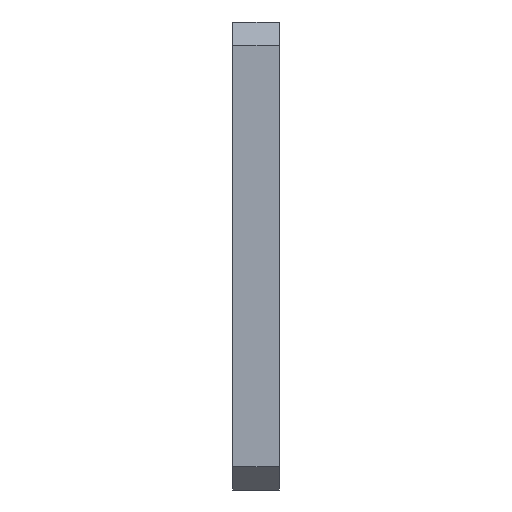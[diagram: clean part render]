
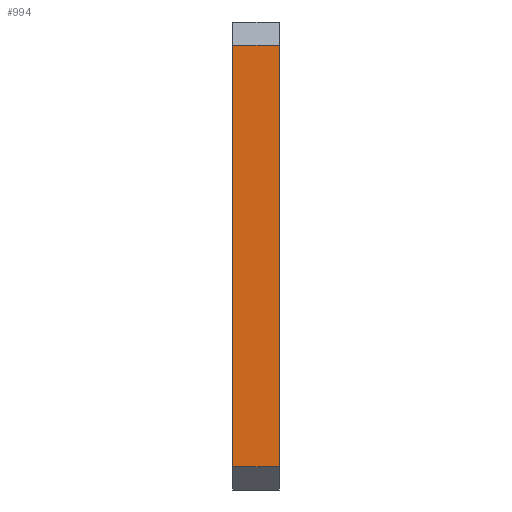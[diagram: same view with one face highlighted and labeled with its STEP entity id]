
A CAD part, left-side view. The second image highlights one B-rep face of the part: STEP entity #994.
In plain terms, the highlighted planar face has unit normal (-1, 0, 0).
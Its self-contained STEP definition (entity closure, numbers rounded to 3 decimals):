
#2 = EDGE_CURVE ( 'NONE', #197, #159, #958, .T. ) ;
#10 = CARTESIAN_POINT ( 'NONE',  ( -125., 10., -45. ) ) ;
#104 = EDGE_CURVE ( 'NONE', #197, #417, #1053, .T. ) ;
#120 = DIRECTION ( 'NONE',  ( 0., -1., 0. ) ) ;
#159 = VERTEX_POINT ( 'NONE', #707 ) ;
#197 = VERTEX_POINT ( 'NONE', #328 ) ;
#240 = VECTOR ( 'NONE', #681, 1000. ) ;
#250 = ORIENTED_EDGE ( 'NONE', *, *, #104, .T. ) ;
#253 = VECTOR ( 'NONE', #1158, 1000. ) ;
#302 = CARTESIAN_POINT ( 'NONE',  ( -125., 10., 50. ) ) ;
#303 = CARTESIAN_POINT ( 'NONE',  ( -125., 10., 45. ) ) ;
#313 = CARTESIAN_POINT ( 'NONE',  ( -125., 10., 50. ) ) ;
#321 = PLANE ( 'NONE',  #577 ) ;
#328 = CARTESIAN_POINT ( 'NONE',  ( -125., 10., -45. ) ) ;
#330 = EDGE_CURVE ( 'NONE', #417, #913, #828, .T. ) ;
#417 = VERTEX_POINT ( 'NONE', #747 ) ;
#458 = VECTOR ( 'NONE', #1117, 1000. ) ;
#577 = AXIS2_PLACEMENT_3D ( 'NONE', #313, #1077, #1092 ) ;
#638 = CARTESIAN_POINT ( 'NONE',  ( -125., 0., 50. ) ) ;
#659 = EDGE_LOOP ( 'NONE', ( #678, #250, #1229, #661 ) ) ;
#661 = ORIENTED_EDGE ( 'NONE', *, *, #874, .T. ) ;
#678 = ORIENTED_EDGE ( 'NONE', *, *, #2, .F. ) ;
#681 = DIRECTION ( 'NONE',  ( 0., 1., 0. ) ) ;
#707 = CARTESIAN_POINT ( 'NONE',  ( -125., 10., 45. ) ) ;
#747 = CARTESIAN_POINT ( 'NONE',  ( -125., 0., -45. ) ) ;
#828 = LINE ( 'NONE', #638, #458 ) ;
#847 = VECTOR ( 'NONE', #120, 1000. ) ;
#874 = EDGE_CURVE ( 'NONE', #913, #159, #1155, .T. ) ;
#913 = VERTEX_POINT ( 'NONE', #946 ) ;
#946 = CARTESIAN_POINT ( 'NONE',  ( -125., 0., 45. ) ) ;
#958 = LINE ( 'NONE', #302, #253 ) ;
#992 = FACE_OUTER_BOUND ( 'NONE', #659, .T. ) ;
#994 = ADVANCED_FACE ( 'NONE', ( #992 ), #321, .F. ) ;
#1053 = LINE ( 'NONE', #10, #847 ) ;
#1077 = DIRECTION ( 'NONE',  ( 1., 0., 0. ) ) ;
#1092 = DIRECTION ( 'NONE',  ( 0., 0., -1. ) ) ;
#1117 = DIRECTION ( 'NONE',  ( 0., 0., 1. ) ) ;
#1155 = LINE ( 'NONE', #303, #240 ) ;
#1158 = DIRECTION ( 'NONE',  ( 0., 0., 1. ) ) ;
#1229 = ORIENTED_EDGE ( 'NONE', *, *, #330, .T. ) ;
